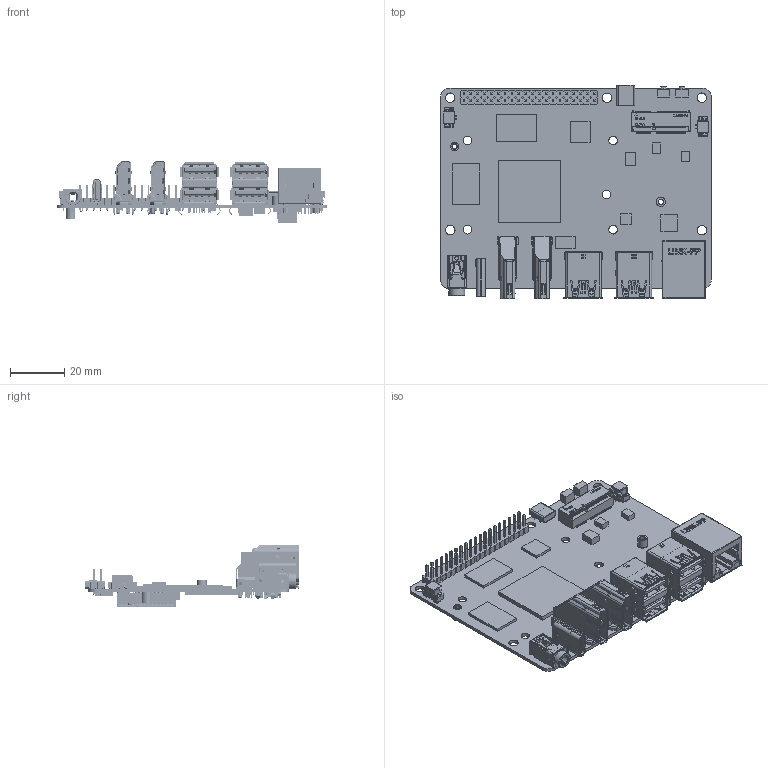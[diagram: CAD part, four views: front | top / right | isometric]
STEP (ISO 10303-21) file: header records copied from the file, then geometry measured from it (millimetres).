
FILE_DESCRIPTION((''),'2;1');
FILE_NAME('00_5B_PCBA_ASM','2023-10-30T14:26:10',('admin'),(''),'CREO PARAMETRIC BY PTC INC, 2023072','CREO PARAMETRIC BY PTC INC, 2023072','');
FILE_SCHEMA(('CONFIG_CONTROL_DESIGN','SHAPE_APPEARANCE_LAYERS_GROUPS'));
Products named in the file (18): 5B_PCB; 5B_PCB_TOP; 5B_PCB_BOT; 000_9_5; WT125AL-024C-0W_3_; LPJG0926HENL; 484060001_2_2_1_1; USB_2X1_H_ASM_2_ASM_1_ASM_1_ASM; USB_2X1_H_ASM; 1816577_2007435-1_2_1_1; HDMI_19P-AF_DIP_ASM_2_ASM_1_ASM_ASM; HDMI_19P-AF_DIP_ASM; TYPE-C-14PIN0001; PJ-322YBC_1_00; HDMI_MICO; APCI0270-P001A; PRT0002; 00_5B_PCBA_ASM
Assembly tree (20 placements, depth 4):
  00_5B_PCBA_ASM
    5B_PCB
    5B_PCB_TOP
    5B_PCB_BOT
    000_9_5
    WT125AL-024C-0W_3_  x2
    LPJG0926HENL
    USB_2X1_H_ASM  x2
      USB_2X1_H_ASM_2_ASM_1_ASM_1_ASM
        484060001_2_2_1_1
    HDMI_19P-AF_DIP_ASM  x2
      HDMI_19P-AF_DIP_ASM_2_ASM_1_ASM_ASM
        1816577_2007435-1_2_1_1
    TYPE-C-14PIN0001
    PJ-322YBC_1_00
    HDMI_MICO
    APCI0270-P001A
    PRT0002
Bounding box: 100.19 x 79.13 x 23.13 mm (x, y, z)
Volume: 23087.6 mm3; surface area: 35594.6 mm2
Topology: 21 solids, 27 shells, 10294 faces, 60655 edges, 67274 vertices
Faces by surface type: plane 7334, cylinder 2634, bspline 114, cone 81, extrusion 75, sphere 36, torus 18, revolution 2
Entity records: 579493 total; most frequent: DIRECTION 90077, CARTESIAN_POINT 84828, ORIENTED_EDGE 46224, PRESENTATION_STYLE_ASSIGNMENT 39768, STYLED_ITEM 39232, CURVE_STYLE 36880, VECTOR 34497, LINE 34422
